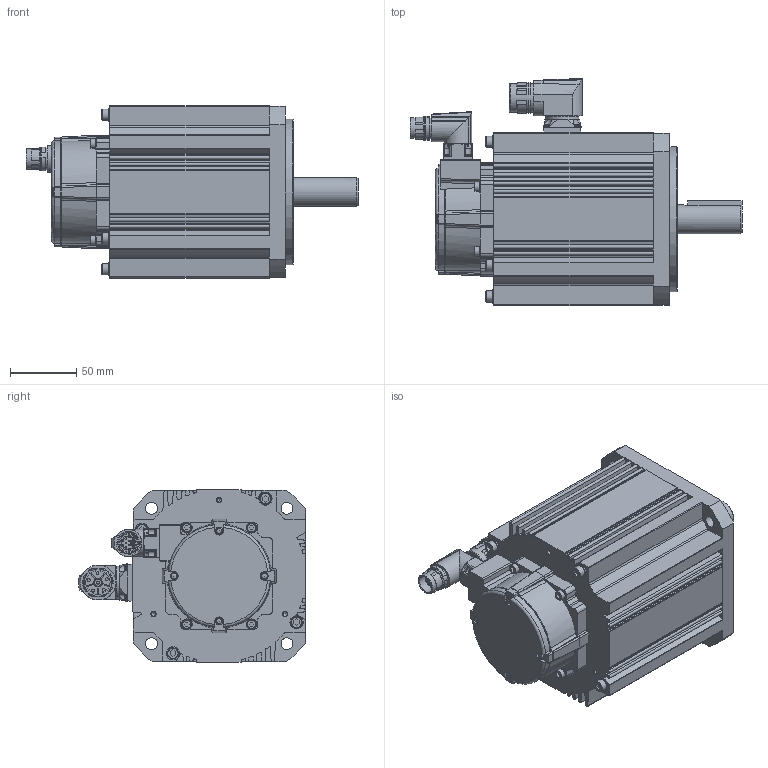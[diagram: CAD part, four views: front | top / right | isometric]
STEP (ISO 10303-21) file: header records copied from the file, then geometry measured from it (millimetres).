
FILE_DESCRIPTION(/* description */ ('STEP AP203'),/* implementation_level */ '2;1');
FILE_NAME(/* name */ 'MDMF204L1H9M',/* time_stamp */ '2026-06-08T17:46:43+02:00',/* author */ ('License CC BY-ND 4.0'),/* organization */ ('CADENAS'),/* preprocessor_version */ 'ST-DEVELOPER v20',/* originating_system */ 'PARTsolutions',/* authorisation */ ' ');
FILE_SCHEMA (('CONFIG_CONTROL_DESIGN'));
Length unit declared in the file: millimetre
Products named in the file (4): MDMF204L1H9M; MDMF204L1H9M-motor; BGC106N00001200000; AGC047N0000150A000_EC
Assembly tree (3 placements, depth 2):
  MDMF204L1H9M
    MDMF204L1H9M-motor
    BGC106N00001200000
    AGC047N0000150A000_EC
Bounding box: 251.25 x 171.8 x 130.6 mm (x, y, z)
Volume: 2326432.5 mm3; surface area: 159960.1 mm2
Topology: 3 solids, 3 shells, 978 faces, 2604 edges, 1705 vertices
Faces by surface type: plane 490, cylinder 361, cone 47, bspline 45, torus 23, sphere 12
Full cylindrical faces by diameter (mm): 1.25 x12, 2.232 x6, 2.459 x1, 2.8 x1, 3.242 x3, 5.5 x5, 6 x4, 7 x4, 8 x4, 8.5 x4, 9 x4, 10 x4, 13.4 x1, 15.54 x1, 16 x1, 16.2 x1, 19.7 x1, 21.6 x1, 22 x1, 24.1 x1, 34 x1, 110 x1
Entity records: 30455 total; most frequent: CARTESIAN_POINT 6319, DIRECTION 5112, ORIENTED_EDGE 4874, EDGE_CURVE 2437, AXIS2_PLACEMENT_3D 1877, VERTEX_POINT 1655, LINE 1358, VECTOR 1358
